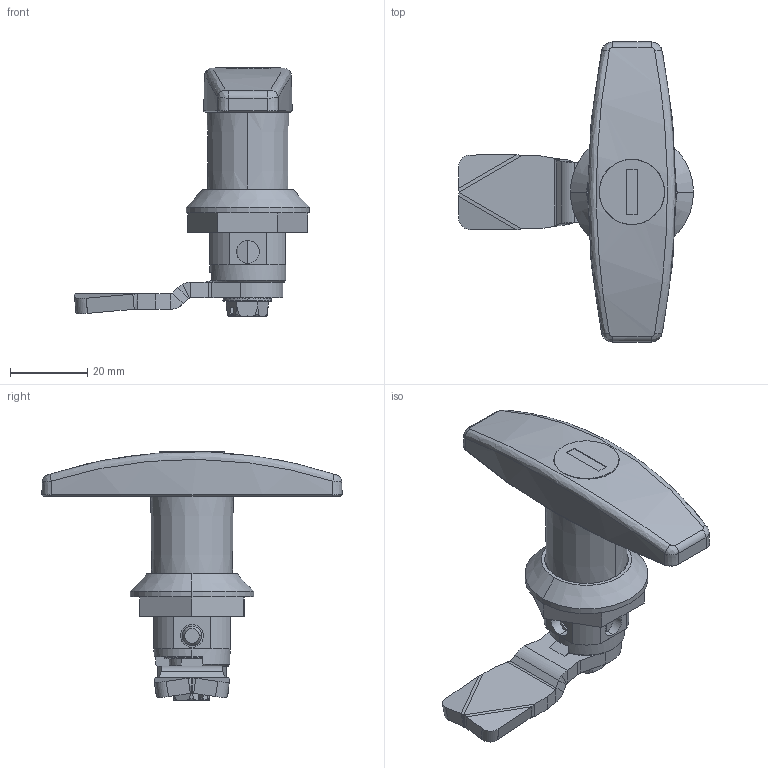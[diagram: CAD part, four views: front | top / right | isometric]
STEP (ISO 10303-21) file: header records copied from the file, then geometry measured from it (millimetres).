
FILE_DESCRIPTION (( 'STEP AP214' ), '1' );
FILE_NAME ('Zamkniêcie z klamka T.STEP', '2010-03-24T07:47:00', ( '£ukaszC' ), ( '' ), 'SwSTEP 2.0', 'SolidWorks 2008', '' );
FILE_SCHEMA (( 'AUTOMOTIVE_DESIGN' ));
Length unit declared in the file: millimetre
Products named in the file (12): Zamkniêcie z klamka T; Oring 12x3,5_Domyœlna_Domyœlna; 2.PM18.001.03_Domyœlna_Domyœlna; Tulejka mimoœród_Domyœlna; œruba M6x8_Domyœlna; 1C.J-160.21.45_Domyœlna_Domyœlna; 2.T18.001.02_Domyœlna_Domyœlna; Wk³adka Patentowa_Domyœlna_Domyœlna; 2.T18.001.10_Domyœlna_Domyœlna; wkret M2.5x4_Domyœlna_Domyœlna; 2.T18.001.01_Domyœlna_Domyœlna; Nakrêtka zamka M22
Assembly tree (11 placements, depth 2):
  Zamkniêcie z klamka T
    œruba M6x8_Domyœlna
    wkret M2.5x4_Domyœlna_Domyœlna
    2.T18.001.01_Domyœlna_Domyœlna
    2.PM18.001.03_Domyœlna_Domyœlna
    2.T18.001.02_Domyœlna_Domyœlna
    Wk³adka Patentowa_Domyœlna_Domyœlna
    Nakrêtka zamka M22
    Tulejka mimoœród_Domyœlna
    2.T18.001.10_Domyœlna_Domyœlna
    1C.J-160.21.45_Domyœlna_Domyœlna
    Oring 12x3,5_Domyœlna_Domyœlna
Bounding box: 61.05 x 77.98 x 64.5 mm (x, y, z)
Volume: 30835.4 mm3; surface area: 22190.7 mm2
Topology: 11 solids, 11 shells, 452 faces, 1162 edges, 743 vertices
Faces by surface type: plane 220, cylinder 102, cone 71, torus 39, bspline 20
Entity records: 25638 total; most frequent: CARTESIAN_POINT 9876, ORIENTED_EDGE 2320, DIRECTION 2077, EDGE_CURVE 1160, AXIS2_PLACEMENT_3D 786, VERTEX_POINT 743, VECTOR 505, LINE 505
